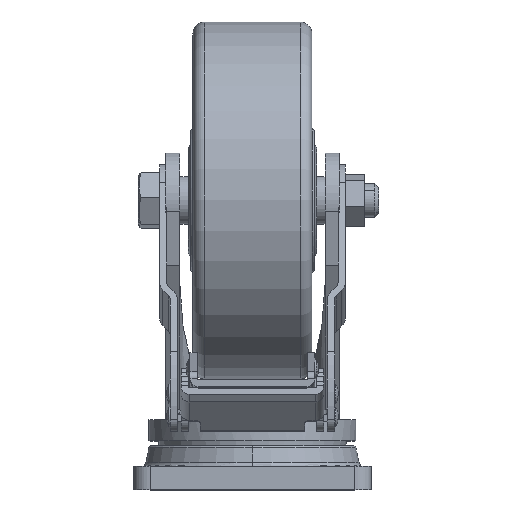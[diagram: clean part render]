
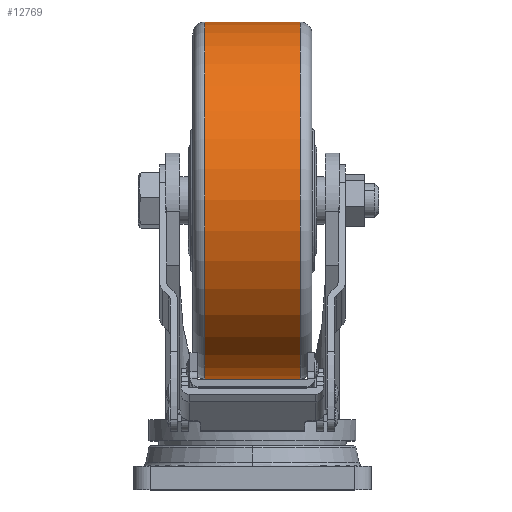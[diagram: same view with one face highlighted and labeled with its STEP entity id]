
A CAD part, top view. The second image highlights one B-rep face of the part: STEP entity #12769.
In plain terms, the highlighted cylindrical face has radius 75 mm (diameter 150 mm), a partial arc.
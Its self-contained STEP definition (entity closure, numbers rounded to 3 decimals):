
#9914=CARTESIAN_POINT('',(0.,0.,-20.));
#9915=DIRECTION('',(0.,0.,1.));
#9916=DIRECTION('',(0.,-1.,0.));
#9917=AXIS2_PLACEMENT_3D('',#9914,#9915,#9916);
#9929=DIRECTION('',(0.,0.,1.));
#9930=VECTOR('',#9929,40.);
#9931=CARTESIAN_POINT('',(0.,75.,-20.));
#9932=LINE('',#9931,#9930);
#9933=DIRECTION('',(0.,0.,1.));
#9934=VECTOR('',#9933,40.);
#9935=CARTESIAN_POINT('',(0.,-75.,-20.));
#9936=LINE('',#9935,#9934);
#9937=CARTESIAN_POINT('',(0.,0.,20.));
#9938=DIRECTION('',(0.,0.,-1.));
#9939=DIRECTION('',(0.,1.,0.));
#9940=AXIS2_PLACEMENT_3D('',#9937,#9938,#9939);
#11552=CARTESIAN_POINT('',(0.,-75.,-20.));
#11553=VERTEX_POINT('',#11552);
#11554=CARTESIAN_POINT('',(0.,75.,-20.));
#11555=VERTEX_POINT('',#11554);
#11556=CARTESIAN_POINT('',(0.,75.,20.));
#11557=VERTEX_POINT('',#11556);
#11558=CARTESIAN_POINT('',(0.,-75.,20.));
#11559=VERTEX_POINT('',#11558);
#12757=CARTESIAN_POINT('',(0.,0.,26.));
#12758=DIRECTION('',(0.,0.,1.));
#12759=DIRECTION('',(0.,-1.,0.));
#12760=AXIS2_PLACEMENT_3D('',#12757,#12758,#12759);
#12761=CYLINDRICAL_SURFACE('',#12760,75.);
#12762=ORIENTED_EDGE('',*,*,#12722,.F.);
#12763=ORIENTED_EDGE('',*,*,#12751,.T.);
#12765=ORIENTED_EDGE('',*,*,#12764,.F.);
#12766=ORIENTED_EDGE('',*,*,#12747,.F.);
#12767=EDGE_LOOP('',(#12762,#12763,#12765,#12766));
#12768=FACE_OUTER_BOUND('',#12767,.F.);
#9918=CIRCLE('',#9917,75.);
#9941=CIRCLE('',#9940,75.);
#12722=EDGE_CURVE('',#11553,#11555,#9918,.T.);
#12747=EDGE_CURVE('',#11555,#11557,#9932,.T.);
#12751=EDGE_CURVE('',#11553,#11559,#9936,.T.);
#12764=EDGE_CURVE('',#11557,#11559,#9941,.T.);
#12769=ADVANCED_FACE('',(#12768),#12761,.T.);
